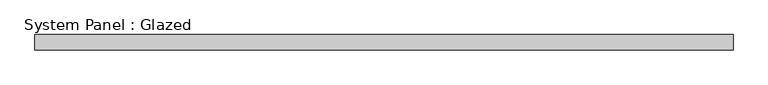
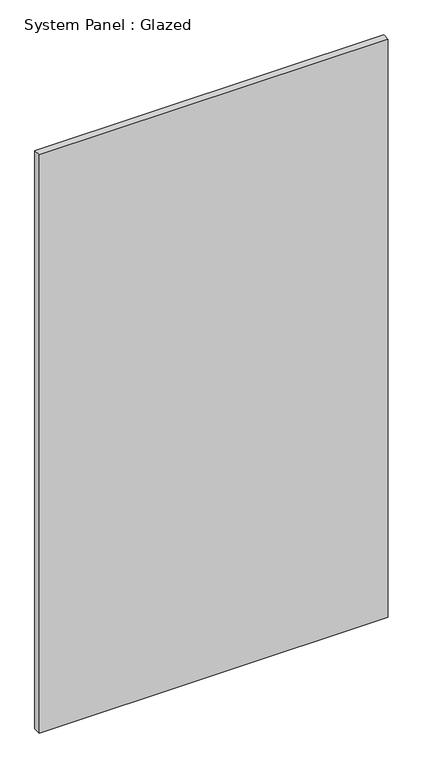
"""IFC4 building model written with IfcOpenShell, lengths in millimetres: plate geometry, System Panel : Glazed."""

from ifc_helpers import new_model, si_unit, origin, origin_with_axes, place, context, project, spatial, polyline, outline, extrude, source, transform, mapped, element, save


def system_panel_glazed_d3095f7c(model_context):
    return source(origin(), model_context, "Body", "SweptSolid", [
        extrude(outline(polyline([(573.4875, -49.5), (-573.4875, -49.5), (-573.4875, -24.5), (573.4875, -24.5), (573.4875, -49.5)])), origin_with_axes(), (0.0, 0.0, 1.0), 2008.0),
    ])


if __name__ == "__main__":
    model = new_model("IFC4")
    model_context = context("Model", 3, world=origin())
    ifc_project = project(units=[si_unit("LENGTHUNIT", "METRE", prefix="MILLI")], contexts=[model_context])
    site = spatial("IfcSite", under=ifc_project)
    building = spatial("IfcBuilding", under=site)
    placement = place(None, origin())
    system_panel_glazed_shape = system_panel_glazed_d3095f7c(model_context)
    element("IfcPlate", 1, ObjectType="System Panel : Glazed", at=placement, inside=building, context=model_context, shape_type="MappedRepresentation", body=[
        mapped(system_panel_glazed_shape, transform((0.0, 0.0, 0.0), x_axis=(1.0, 0.0, 0.0), y_axis=(0.0, 1.0, 0.0), z_axis=(0.0, 0.0, 1.0))),
    ])
    save(model, "model.ifc")
